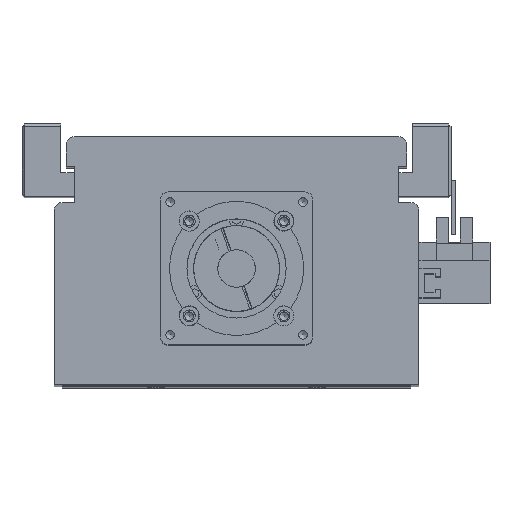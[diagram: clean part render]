
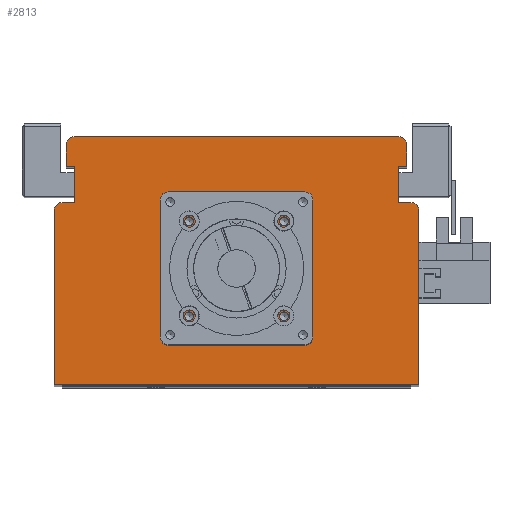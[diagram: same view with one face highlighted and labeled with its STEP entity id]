
A CAD part, top view. The second image highlights one B-rep face of the part: STEP entity #2813.
In plain terms, the highlighted planar face has unit normal (0, 0, 1).
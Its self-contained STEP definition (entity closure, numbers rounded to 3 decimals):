
#1371=CARTESIAN_POINT('',(19.321,61.5,395.0));
#1372=VERTEX_POINT('',#1371);
#1373=CARTESIAN_POINT('',(17.7,61.5,395.0));
#1374=DIRECTION('',(0.0,0.0,-1.0));
#1375=DIRECTION('',(1.0,0.0,0.0));
#1376=AXIS2_PLACEMENT_3D('',#1373,#1374,#1375);
#1377=CIRCLE('',#1376,1.621);
#1378=EDGE_CURVE('',#1372,#1372,#1377,.T.);
#1450=CARTESIAN_POINT('',(19.321,26.1,395.0));
#1451=VERTEX_POINT('',#1450);
#1452=CARTESIAN_POINT('',(17.7,26.1,395.0));
#1453=DIRECTION('',(0.0,0.0,-1.0));
#1454=DIRECTION('',(1.0,0.0,0.0));
#1455=AXIS2_PLACEMENT_3D('',#1452,#1453,#1454);
#1456=CIRCLE('',#1455,1.621);
#1457=EDGE_CURVE('',#1451,#1451,#1456,.T.);
#1529=CARTESIAN_POINT('',(-16.079,26.1,395.0));
#1530=VERTEX_POINT('',#1529);
#1531=CARTESIAN_POINT('',(-17.7,26.1,395.0));
#1532=DIRECTION('',(0.0,0.0,-1.0));
#1533=DIRECTION('',(1.0,0.0,0.0));
#1534=AXIS2_PLACEMENT_3D('',#1531,#1532,#1533);
#1535=CIRCLE('',#1534,1.621);
#1536=EDGE_CURVE('',#1530,#1530,#1535,.T.);
#1608=CARTESIAN_POINT('',(-16.079,61.5,395.0));
#1609=VERTEX_POINT('',#1608);
#1610=CARTESIAN_POINT('',(-17.7,61.5,395.0));
#1611=DIRECTION('',(0.0,0.0,-1.0));
#1612=DIRECTION('',(1.0,0.0,0.0));
#1613=AXIS2_PLACEMENT_3D('',#1610,#1611,#1612);
#1614=CIRCLE('',#1613,1.621);
#1615=EDGE_CURVE('',#1609,#1609,#1614,.T.);
#1649=CARTESIAN_POINT('',(26.5,43.8,395.0));
#1650=VERTEX_POINT('',#1649);
#1651=CARTESIAN_POINT('',(24.5,43.8,395.0));
#1652=DIRECTION('',(0.0,0.0,-1.0));
#1653=DIRECTION('',(1.0,0.0,0.0));
#1654=AXIS2_PLACEMENT_3D('',#1651,#1652,#1653);
#1655=CIRCLE('',#1654,2.0);
#1656=EDGE_CURVE('',#1650,#1650,#1655,.T.);
#1698=CARTESIAN_POINT('',(-22.5,43.8,395.0));
#1699=VERTEX_POINT('',#1698);
#1700=CARTESIAN_POINT('',(-24.5,43.8,395.0));
#1701=DIRECTION('',(0.0,0.0,-1.0));
#1702=DIRECTION('',(1.0,0.0,0.0));
#1703=AXIS2_PLACEMENT_3D('',#1700,#1701,#1702);
#1704=CIRCLE('',#1703,2.0);
#1705=EDGE_CURVE('',#1699,#1699,#1704,.T.);
#2629=CARTESIAN_POINT('',(21.05,43.8,395.0));
#2630=VERTEX_POINT('',#2629);
#2631=CARTESIAN_POINT('',(0.0,43.8,395.0));
#2632=DIRECTION('',(0.0,0.0,-1.0));
#2633=DIRECTION('',(-1.0,0.0,0.0));
#2634=AXIS2_PLACEMENT_3D('',#2631,#2632,#2633);
#2635=CIRCLE('',#2634,21.05);
#2636=EDGE_CURVE('',#2630,#2630,#2635,.T.);
#2653=CARTESIAN_POINT('',(0.,29.533,395.0));
#2654=DIRECTION('',(0.0,0.0,1.0));
#2655=DIRECTION('',(1.0,0.0,0.0));
#2656=AXIS2_PLACEMENT_3D('',#2653,#2654,#2655);
#2657=PLANE('',#2656);
#2658=CARTESIAN_POINT('',(-65.,68.5,395.0));
#2659=VERTEX_POINT('',#2658);
#2660=CARTESIAN_POINT('',(-60.5,68.5,395.0));
#2661=VERTEX_POINT('',#2660);
#2662=CARTESIAN_POINT('',(-65.,68.5,395.0));
#2663=DIRECTION('',(1.0,0.0,0.0));
#2664=VECTOR('',#2663,4.5);
#2665=LINE('',#2662,#2664);
#2666=EDGE_CURVE('',#2659,#2661,#2665,.T.);
#2667=ORIENTED_EDGE('',*,*,#2666,.F.);
#2668=CARTESIAN_POINT('',(-68.,65.5,395.0));
#2669=VERTEX_POINT('',#2668);
#2670=CARTESIAN_POINT('',(-65.,65.5,395.0));
#2671=DIRECTION('',(0.0,0.0,-1.0));
#2672=DIRECTION('',(0.0,1.0,0.0));
#2673=AXIS2_PLACEMENT_3D('',#2670,#2671,#2672);
#2674=CIRCLE('',#2673,3.);
#2675=EDGE_CURVE('',#2669,#2659,#2674,.T.);
#2676=ORIENTED_EDGE('',*,*,#2675,.F.);
#2677=CARTESIAN_POINT('',(-68.0,0.5,395.0));
#2678=VERTEX_POINT('',#2677);
#2679=CARTESIAN_POINT('',(-68.0,0.5,395.0));
#2680=DIRECTION('',(0.0,1.0,0.0));
#2681=VECTOR('',#2680,65.0);
#2682=LINE('',#2679,#2681);
#2683=EDGE_CURVE('',#2678,#2669,#2682,.T.);
#2684=ORIENTED_EDGE('',*,*,#2683,.F.);
#2685=CARTESIAN_POINT('',(68.0,0.5,395.0));
#2686=VERTEX_POINT('',#2685);
#2687=CARTESIAN_POINT('',(68.0,0.5,395.0));
#2688=DIRECTION('',(-1.0,0.0,0.0));
#2689=VECTOR('',#2688,136.0);
#2690=LINE('',#2687,#2689);
#2691=EDGE_CURVE('',#2686,#2678,#2690,.T.);
#2692=ORIENTED_EDGE('',*,*,#2691,.F.);
#2693=CARTESIAN_POINT('',(68.0,65.5,395.0));
#2694=VERTEX_POINT('',#2693);
#2695=CARTESIAN_POINT('',(68.0,65.5,395.0));
#2696=DIRECTION('',(0.0,-1.0,0.0));
#2697=VECTOR('',#2696,65.0);
#2698=LINE('',#2695,#2697);
#2699=EDGE_CURVE('',#2694,#2686,#2698,.T.);
#2700=ORIENTED_EDGE('',*,*,#2699,.F.);
#2701=CARTESIAN_POINT('',(65.,68.5,395.0));
#2702=VERTEX_POINT('',#2701);
#2703=CARTESIAN_POINT('',(65.,65.5,395.0));
#2704=DIRECTION('',(0.0,0.0,-1.0));
#2705=DIRECTION('',(1.0,0.0,0.0));
#2706=AXIS2_PLACEMENT_3D('',#2703,#2704,#2705);
#2707=CIRCLE('',#2706,3.);
#2708=EDGE_CURVE('',#2702,#2694,#2707,.T.);
#2709=ORIENTED_EDGE('',*,*,#2708,.F.);
#2710=CARTESIAN_POINT('',(60.5,68.5,395.0));
#2711=VERTEX_POINT('',#2710);
#2712=CARTESIAN_POINT('',(60.5,68.5,395.0));
#2713=DIRECTION('',(1.0,0.0,0.0));
#2714=VECTOR('',#2713,4.5);
#2715=LINE('',#2712,#2714);
#2716=EDGE_CURVE('',#2711,#2702,#2715,.T.);
#2717=ORIENTED_EDGE('',*,*,#2716,.F.);
#2718=CARTESIAN_POINT('',(60.5,82.,395.0));
#2719=VERTEX_POINT('',#2718);
#2720=CARTESIAN_POINT('',(60.5,82.,395.0));
#2721=DIRECTION('',(0.0,-1.0,0.0));
#2722=VECTOR('',#2721,13.5);
#2723=LINE('',#2720,#2722);
#2724=EDGE_CURVE('',#2719,#2711,#2723,.T.);
#2725=ORIENTED_EDGE('',*,*,#2724,.F.);
#2726=CARTESIAN_POINT('',(63.5,82.,395.0));
#2727=VERTEX_POINT('',#2726);
#2728=CARTESIAN_POINT('',(63.5,82.,395.0));
#2729=DIRECTION('',(-1.0,0.0,0.0));
#2730=VECTOR('',#2729,3.0);
#2731=LINE('',#2728,#2730);
#2732=EDGE_CURVE('',#2727,#2719,#2731,.T.);
#2733=ORIENTED_EDGE('',*,*,#2732,.F.);
#2734=CARTESIAN_POINT('',(63.5,90.0,395.0));
#2735=VERTEX_POINT('',#2734);
#2736=CARTESIAN_POINT('',(63.5,90.0,395.0));
#2737=DIRECTION('',(0.0,-1.0,0.0));
#2738=VECTOR('',#2737,8.);
#2739=LINE('',#2736,#2738);
#2740=EDGE_CURVE('',#2735,#2727,#2739,.T.);
#2741=ORIENTED_EDGE('',*,*,#2740,.F.);
#2742=CARTESIAN_POINT('',(60.5,93.,395.0));
#2743=VERTEX_POINT('',#2742);
#2744=CARTESIAN_POINT('',(60.5,90.0,395.0));
#2745=DIRECTION('',(0.0,0.0,-1.0));
#2746=DIRECTION('',(1.0,0.0,0.0));
#2747=AXIS2_PLACEMENT_3D('',#2744,#2745,#2746);
#2748=CIRCLE('',#2747,3.);
#2749=EDGE_CURVE('',#2743,#2735,#2748,.T.);
#2750=ORIENTED_EDGE('',*,*,#2749,.F.);
#2751=CARTESIAN_POINT('',(-60.5,93.0,395.0));
#2752=VERTEX_POINT('',#2751);
#2753=CARTESIAN_POINT('',(-60.5,93.0,395.0));
#2754=DIRECTION('',(1.0,0.0,0.0));
#2755=VECTOR('',#2754,121.0);
#2756=LINE('',#2753,#2755);
#2757=EDGE_CURVE('',#2752,#2743,#2756,.T.);
#2758=ORIENTED_EDGE('',*,*,#2757,.F.);
#2759=CARTESIAN_POINT('',(-63.5,90.0,395.0));
#2760=VERTEX_POINT('',#2759);
#2761=CARTESIAN_POINT('',(-60.5,90.0,395.0));
#2762=DIRECTION('',(0.0,0.0,-1.0));
#2763=DIRECTION('',(0.0,1.0,0.0));
#2764=AXIS2_PLACEMENT_3D('',#2761,#2762,#2763);
#2765=CIRCLE('',#2764,3.);
#2766=EDGE_CURVE('',#2760,#2752,#2765,.T.);
#2767=ORIENTED_EDGE('',*,*,#2766,.F.);
#2768=CARTESIAN_POINT('',(-63.5,82.,395.0));
#2769=VERTEX_POINT('',#2768);
#2770=CARTESIAN_POINT('',(-63.5,82.,395.0));
#2771=DIRECTION('',(0.0,1.0,0.0));
#2772=VECTOR('',#2771,8.);
#2773=LINE('',#2770,#2772);
#2774=EDGE_CURVE('',#2769,#2760,#2773,.T.);
#2775=ORIENTED_EDGE('',*,*,#2774,.F.);
#2776=CARTESIAN_POINT('',(-60.5,82.,395.0));
#2777=VERTEX_POINT('',#2776);
#2778=CARTESIAN_POINT('',(-60.5,82.,395.0));
#2779=DIRECTION('',(-1.0,0.0,0.0));
#2780=VECTOR('',#2779,3.);
#2781=LINE('',#2778,#2780);
#2782=EDGE_CURVE('',#2777,#2769,#2781,.T.);
#2783=ORIENTED_EDGE('',*,*,#2782,.F.);
#2784=CARTESIAN_POINT('',(-60.5,68.5,395.0));
#2785=DIRECTION('',(0.0,1.0,0.0));
#2786=VECTOR('',#2785,13.5);
#2787=LINE('',#2784,#2786);
#2788=EDGE_CURVE('',#2661,#2777,#2787,.T.);
#2789=ORIENTED_EDGE('',*,*,#2788,.F.);
#2790=EDGE_LOOP('',(#2667,#2676,#2684,#2692,#2700,#2709,#2717,#2725,#2733,#2741,#2750,#2758,#2767,#2775,#2783,#2789));
#2791=FACE_OUTER_BOUND('',#2790,.T.);
#2792=ORIENTED_EDGE('',*,*,#1378,.T.);
#2793=EDGE_LOOP('',(#2792));
#2794=FACE_BOUND('',#2793,.T.);
#2795=ORIENTED_EDGE('',*,*,#1457,.T.);
#2796=EDGE_LOOP('',(#2795));
#2797=FACE_BOUND('',#2796,.T.);
#2798=ORIENTED_EDGE('',*,*,#1536,.T.);
#2799=EDGE_LOOP('',(#2798));
#2800=FACE_BOUND('',#2799,.T.);
#2801=ORIENTED_EDGE('',*,*,#1615,.T.);
#2802=EDGE_LOOP('',(#2801));
#2803=FACE_BOUND('',#2802,.T.);
#2804=ORIENTED_EDGE('',*,*,#1656,.T.);
#2805=EDGE_LOOP('',(#2804));
#2806=FACE_BOUND('',#2805,.T.);
#2807=ORIENTED_EDGE('',*,*,#1705,.T.);
#2808=EDGE_LOOP('',(#2807));
#2809=FACE_BOUND('',#2808,.T.);
#2810=ORIENTED_EDGE('',*,*,#2636,.T.);
#2811=EDGE_LOOP('',(#2810));
#2812=FACE_BOUND('',#2811,.T.);
#2813=ADVANCED_FACE('',(#2791,#2794,#2797,#2800,#2803,#2806,#2809,#2812),#2657,.T.);
